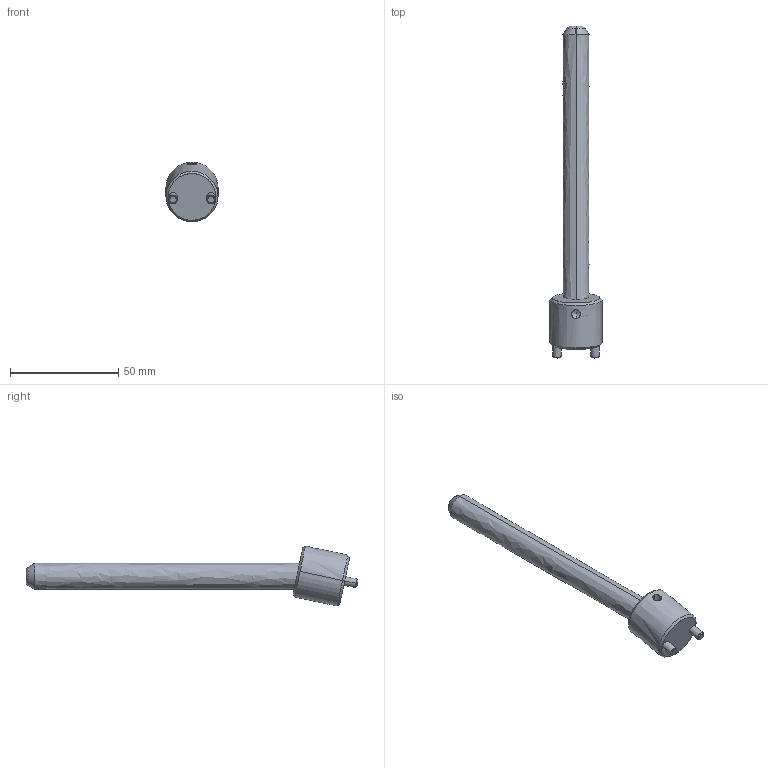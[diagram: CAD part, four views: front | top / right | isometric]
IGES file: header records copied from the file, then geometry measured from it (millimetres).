
Start section: START RECORD GO HERE.
Global section: file name: CI1212125.igs; native system: DASSAULT SYSTEMES CATIA V5 R20 - www.3ds.com; preprocessor: CATIA Version 5 Release 20 ; author: r.borello; organization: CFTORINO; date: 20190620.160218; units: millimetre
Bounding box: 24 x 153.22 x 27.63 mm (x, y, z)
Surface area: 8912.1 mm2 (no closed solid volume)
Topology: 0 solids, 0 shells, 39 faces, 162 edges, 160 vertices
Faces by surface type: revolution 32, plane 7
